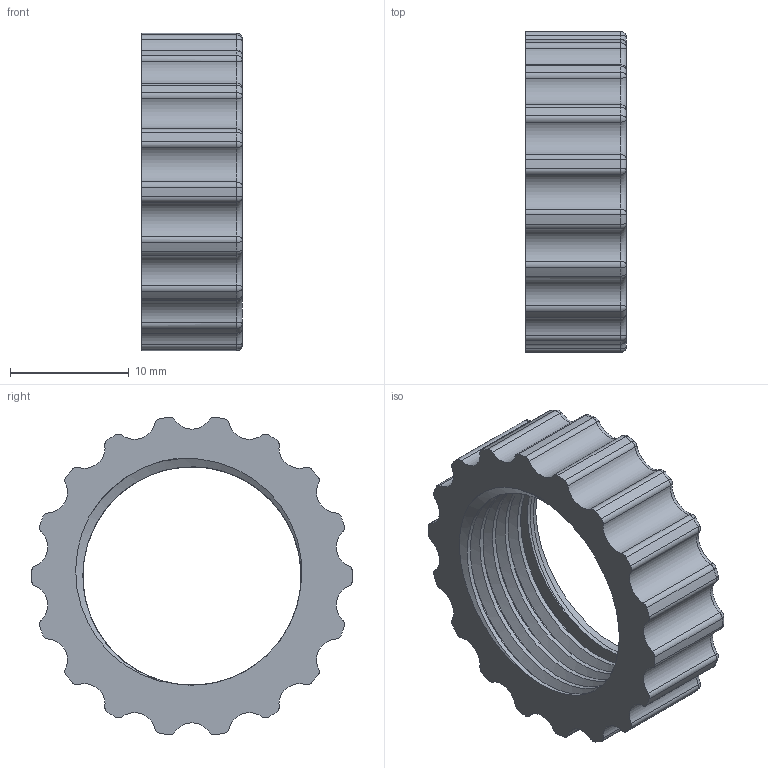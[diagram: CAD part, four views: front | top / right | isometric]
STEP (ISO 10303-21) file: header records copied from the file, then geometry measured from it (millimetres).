
FILE_DESCRIPTION (( 'STEP AP214' ), '1' );
FILE_NAME ('P001-B104_BallNut_Rev2D-1.STEP', '2026-04-20T05:41:00', ( '' ), ( '' ), 'SwSTEP 2.0', 'SolidWorks 2024', '' );
FILE_SCHEMA (( 'AUTOMOTIVE_DESIGN' ));
Length unit declared in the file: millimetre
Products named in the file (1): P001-B104_BallNut_Rev2D-1
Bounding box: 8.5 x 27 x 26.73 mm (x, y, z)
Volume: 2012.1 mm3; surface area: 2215.7 mm2
Topology: 1 solids, 1 shells, 155 faces, 369 edges, 206 vertices
Faces by surface type: cylinder 75, sphere 36, torus 36, bspline 4, plane 4
Full cylindrical faces by diameter (mm): 21 x1
Entity records: 5699 total; most frequent: CARTESIAN_POINT 2108, DIRECTION 892, ORIENTED_EDGE 688, AXIS2_PLACEMENT_3D 410, EDGE_CURVE 344, CIRCLE 258, VERTEX_POINT 194, EDGE_LOOP 160
